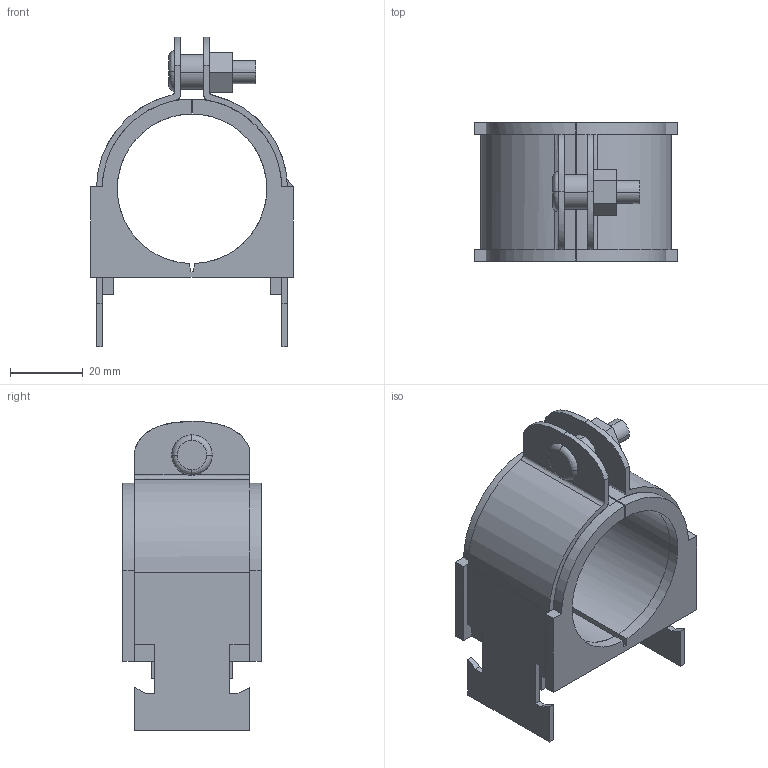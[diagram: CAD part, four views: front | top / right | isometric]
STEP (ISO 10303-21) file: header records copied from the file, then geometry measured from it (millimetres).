
FILE_DESCRIPTION(('TurboCAD Mac Pro'),'Build 980');
FILE_NAME('026T030.stp',' ',(''),(''),'ACIS Interop','IMSI','TurboCAD Mac Pro BY IMSI, INCORPORATED');
FILE_SCHEMA(('automotive_design'));
Length unit declared in the file: inch
Products named in the file (4): 1; 2; 3; 4
Bounding box: 55.75 x 38.1 x 85.09 mm (x, y, z)
Volume: 44060.8 mm3; surface area: 28214.7 mm2
Topology: 4 solids, 4 shells, 153 faces, 411 edges, 266 vertices
Faces by surface type: plane 100, bspline 53
Entity records: 7439 total; most frequent: CARTESIAN_POINT 1861, ORIENTED_EDGE 822, DIRECTION 505, EDGE_CURVE 411, STYLED_ITEM 322, PRESENTATION_STYLE_ASSIGNMENT 322, COLOUR_RGB 322, LINE 289
